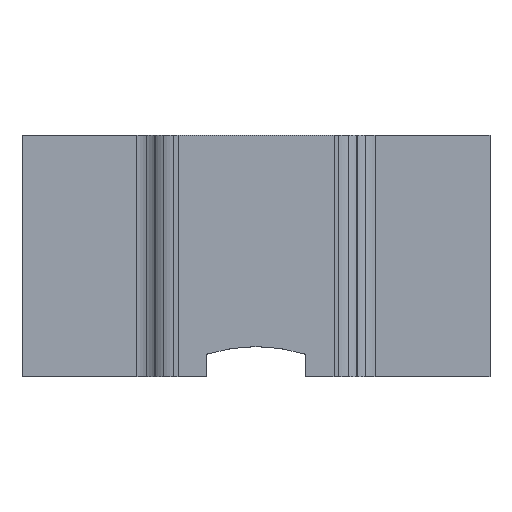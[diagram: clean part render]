
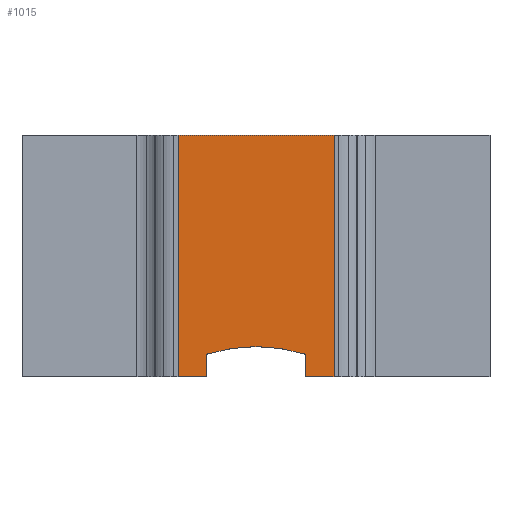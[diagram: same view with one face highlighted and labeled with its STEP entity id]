
A CAD part, top view. The second image highlights one B-rep face of the part: STEP entity #1015.
In plain terms, the highlighted planar face has unit normal (0, 0, 1).
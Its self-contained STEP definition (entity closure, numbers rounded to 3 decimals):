
#5 = CARTESIAN_POINT ( 'NONE',  ( -2.5, 7.75, 1.262 ) ) ;
#18 = LINE ( 'NONE', #5, #717 ) ;
#19 = VERTEX_POINT ( 'NONE', #1099 ) ;
#56 = EDGE_CURVE ( 'NONE', #19, #922, #1139, .T. ) ;
#96 = CARTESIAN_POINT ( 'NONE',  ( -1.575, 0.725, 1.262 ) ) ;
#107 = DIRECTION ( 'NONE',  ( 0., -1., 0. ) ) ;
#184 = CARTESIAN_POINT ( 'NONE',  ( 1.575, 0., 1.262 ) ) ;
#186 = CARTESIAN_POINT ( 'NONE',  ( 1.575, 0., 1.262 ) ) ;
#190 = CARTESIAN_POINT ( 'NONE',  ( 1.575, 0.725, 1.262 ) ) ;
#215 = CARTESIAN_POINT ( 'NONE',  ( 2.5, 0., 1.262 ) ) ;
#217 = AXIS2_PLACEMENT_3D ( 'NONE', #707, #291, #1134 ) ;
#282 = CIRCLE ( 'NONE', #217, 5.185 ) ;
#287 = CARTESIAN_POINT ( 'NONE',  ( 2.5, 7.75, 1.262 ) ) ;
#291 = DIRECTION ( 'NONE',  ( 0., 0., 1. ) ) ;
#325 = DIRECTION ( 'NONE',  ( 0., -1., 0. ) ) ;
#361 = VECTOR ( 'NONE', #719, 1000. ) ;
#420 = EDGE_LOOP ( 'NONE', ( #995, #476, #882, #555, #1252, #782, #969, #589 ) ) ;
#451 = EDGE_CURVE ( 'NONE', #1328, #462, #691, .T. ) ;
#462 = VERTEX_POINT ( 'NONE', #1036 ) ;
#473 = EDGE_CURVE ( 'NONE', #922, #624, #658, .T. ) ;
#476 = ORIENTED_EDGE ( 'NONE', *, *, #473, .F. ) ;
#485 = DIRECTION ( 'NONE',  ( 0., 0., 1. ) ) ;
#489 = LINE ( 'NONE', #816, #524 ) ;
#515 = CARTESIAN_POINT ( 'NONE',  ( -2.5, 7.75, 1.262 ) ) ;
#524 = VECTOR ( 'NONE', #708, 1000. ) ;
#549 = VERTEX_POINT ( 'NONE', #569 ) ;
#555 = ORIENTED_EDGE ( 'NONE', *, *, #655, .F. ) ;
#569 = CARTESIAN_POINT ( 'NONE',  ( -1.575, 0.725, 1.262 ) ) ;
#570 = VECTOR ( 'NONE', #700, 1000. ) ;
#589 = ORIENTED_EDGE ( 'NONE', *, *, #1301, .F. ) ;
#624 = VERTEX_POINT ( 'NONE', #184 ) ;
#646 = DIRECTION ( 'NONE',  ( 1., 0., 0. ) ) ;
#655 = EDGE_CURVE ( 'NONE', #1328, #19, #18, .T. ) ;
#658 = LINE ( 'NONE', #1046, #361 ) ;
#691 = LINE ( 'NONE', #515, #1060 ) ;
#692 = DIRECTION ( 'NONE',  ( 1., 0., 0. ) ) ;
#700 = DIRECTION ( 'NONE',  ( 0., 1., 0. ) ) ;
#707 = CARTESIAN_POINT ( 'NONE',  ( 0., -4.215, 1.262 ) ) ;
#708 = DIRECTION ( 'NONE',  ( -1., 0., 0. ) ) ;
#717 = VECTOR ( 'NONE', #646, 1000. ) ;
#719 = DIRECTION ( 'NONE',  ( -1., 0., 0. ) ) ;
#725 = EDGE_CURVE ( 'NONE', #1287, #462, #489, .T. ) ;
#773 = AXIS2_PLACEMENT_3D ( 'NONE', #287, #485, #692 ) ;
#782 = ORIENTED_EDGE ( 'NONE', *, *, #725, .F. ) ;
#810 = PLANE ( 'NONE',  #773 ) ;
#815 = CARTESIAN_POINT ( 'NONE',  ( -1.575, 0., 1.262 ) ) ;
#816 = CARTESIAN_POINT ( 'NONE',  ( 1.25, 0., 1.262 ) ) ;
#866 = LINE ( 'NONE', #96, #1168 ) ;
#880 = LINE ( 'NONE', #186, #570 ) ;
#882 = ORIENTED_EDGE ( 'NONE', *, *, #56, .F. ) ;
#922 = VERTEX_POINT ( 'NONE', #215 ) ;
#955 = FACE_OUTER_BOUND ( 'NONE', #420, .T. ) ;
#969 = ORIENTED_EDGE ( 'NONE', *, *, #1190, .F. ) ;
#995 = ORIENTED_EDGE ( 'NONE', *, *, #1235, .F. ) ;
#1015 = ADVANCED_FACE ( 'NONE', ( #955 ), #810, .T. ) ;
#1025 = CARTESIAN_POINT ( 'NONE',  ( -2.5, 7.75, 1.262 ) ) ;
#1028 = VERTEX_POINT ( 'NONE', #190 ) ;
#1036 = CARTESIAN_POINT ( 'NONE',  ( -2.5, 0., 1.262 ) ) ;
#1046 = CARTESIAN_POINT ( 'NONE',  ( 1.25, 0., 1.262 ) ) ;
#1060 = VECTOR ( 'NONE', #325, 1000. ) ;
#1099 = CARTESIAN_POINT ( 'NONE',  ( 2.5, 7.75, 1.262 ) ) ;
#1104 = DIRECTION ( 'NONE',  ( 0., -1., 0. ) ) ;
#1134 = DIRECTION ( 'NONE',  ( -1., 0., 0. ) ) ;
#1139 = LINE ( 'NONE', #1209, #1351 ) ;
#1168 = VECTOR ( 'NONE', #107, 1000. ) ;
#1190 = EDGE_CURVE ( 'NONE', #549, #1287, #866, .T. ) ;
#1209 = CARTESIAN_POINT ( 'NONE',  ( 2.5, 7.75, 1.262 ) ) ;
#1235 = EDGE_CURVE ( 'NONE', #624, #1028, #880, .T. ) ;
#1252 = ORIENTED_EDGE ( 'NONE', *, *, #451, .T. ) ;
#1287 = VERTEX_POINT ( 'NONE', #815 ) ;
#1301 = EDGE_CURVE ( 'NONE', #1028, #549, #282, .T. ) ;
#1328 = VERTEX_POINT ( 'NONE', #1025 ) ;
#1351 = VECTOR ( 'NONE', #1104, 1000. ) ;
